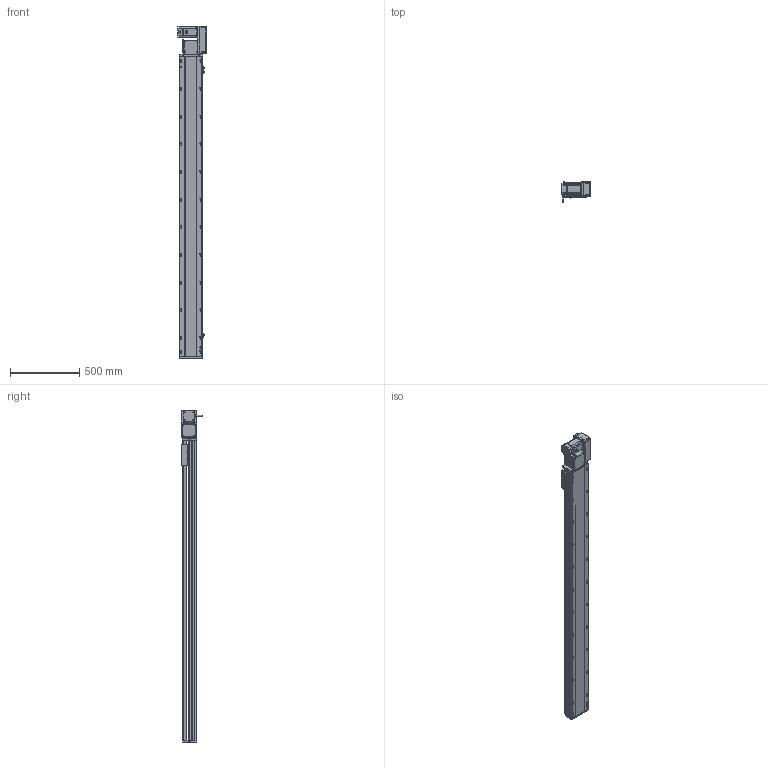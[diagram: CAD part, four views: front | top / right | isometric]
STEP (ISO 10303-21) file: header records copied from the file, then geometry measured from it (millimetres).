
FILE_DESCRIPTION (( 'STEP AP214' ), '1' );
FILE_NAME ('RTB17S-XX-1900-R-M75-C4.STEP', '2025-12-12T01:40:38', ( '' ), ( '' ), 'SwSTEP 2.0', 'SolidWorks 2018', '' );
FILE_SCHEMA (( 'AUTOMOTIVE_DESIGN' ));
Length unit declared in the file: millimetre
Products named in the file (15): RTB22S-GY-018P^RTB17S-R-々湍釱蚾饜-750W_RTB17S-XX-XX-R-M75-C4; RTB22S-GY-017P^RTB17S-R-々湍釱蚾饜-750W_RTB17S-XX-XX-R-M75-C4; RTB17S-賑釱^RTB17S-XX-XX-R-M75-C4; RTB17-R-011菁釱^RTB17S-XX-XX-R-M75-C4; RTB17S-L-004-賑釱^RTB17S-賑釱_RTB17S-XX-XX-R-M75-C4; RTB17S-L-001-耜醱啣^RTB17S-XX-XX-R-M75-C4; RTB17S-L-014-T20-P75--々湍釱^RTB17S-R-々湍釱蚾饜-750W_RTB17S-XX-XX-R-M75-C4; RTB22S-GY-008-M75--萇儂啣^RTB17S-R-々湍釱蚾饜-750W_RTB17S-XX-XX-R-M75-C4; RTH13-BL-012覜茼え俋离^RTB17S-賑釱_RTB17S-XX-XX-R-M75-C4; RTB22S-GY-005P^RTB17S-R-々湍釱蚾饜-750W_RTB17S-XX-XX-R-M75-C4; RTB17S-L-007奻裔^RTB17S-XX-XX-R-M75-C4; EE672^RTB17S-XX-XX-R-M75-C4; RTB17S-R-々湍釱蚾饜-750W^RTB17S-XX-XX-R-M75-C4; RTB17S-XX-1900-R-M75-C4; 750W萇儂^RTB17S-XX-XX-R-M75-C4
Assembly tree (17 placements, depth 3):
  RTB17S-XX-1900-R-M75-C4
    RTB17-R-011菁釱^RTB17S-XX-XX-R-M75-C4
    EE672^RTB17S-XX-XX-R-M75-C4  x3
    RTB17S-L-001-耜醱啣^RTB17S-XX-XX-R-M75-C4
    RTB17S-賑釱^RTB17S-XX-XX-R-M75-C4
      RTB17S-L-004-賑釱^RTB17S-賑釱_RTB17S-XX-XX-R-M75-C4
      RTH13-BL-012覜茼え俋离^RTB17S-賑釱_RTB17S-XX-XX-R-M75-C4
    RTB17S-L-007奻裔^RTB17S-XX-XX-R-M75-C4
    750W萇儂^RTB17S-XX-XX-R-M75-C4
    RTB17S-R-々湍釱蚾饜-750W^RTB17S-XX-XX-R-M75-C4
      RTB17S-L-014-T20-P75--々湍釱^RTB17S-R-々湍釱蚾饜-750W_RTB17S-XX-XX-R-M75-C4
      RTB22S-GY-005P^RTB17S-R-々湍釱蚾饜-750W_RTB17S-XX-XX-R-M75-C4
      RTB22S-GY-017P^RTB17S-R-々湍釱蚾饜-750W_RTB17S-XX-XX-R-M75-C4  x2
      RTB22S-GY-008-M75--萇儂啣^RTB17S-R-々湍釱蚾饜-750W_RTB17S-XX-XX-R-M75-C4
      RTB22S-GY-018P^RTB17S-R-々湍釱蚾饜-750W_RTB17S-XX-XX-R-M75-C4
Bounding box: 207.4 x 152.7 x 2399 mm (x, y, z)
Volume: 17824560.9 mm3; surface area: 3177314.7 mm2
Topology: 17 solids, 17 shells, 2169 faces, 6052 edges, 3914 vertices
Faces by surface type: plane 980, cylinder 773, bspline 294, cone 110, sphere 8, torus 4
Entity records: 61942 total; most frequent: CARTESIAN_POINT 18316, ORIENTED_EDGE 8948, DIRECTION 8312, EDGE_CURVE 4474, AXIS2_PLACEMENT_3D 2934, VERTEX_POINT 2918, VECTOR 2444, LINE 2444
